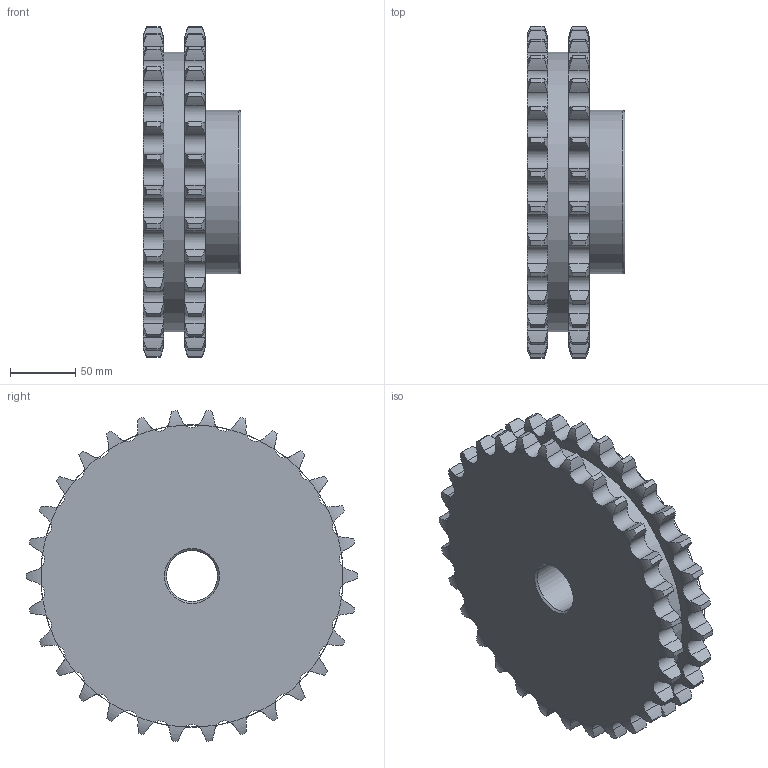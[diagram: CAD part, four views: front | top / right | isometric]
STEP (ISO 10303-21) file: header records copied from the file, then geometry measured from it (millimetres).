
FILE_DESCRIPTION(/* description */ (''),/* implementation_level */ '2;1');
FILE_NAME(/* name */ 'C:\Users\stagistacad\Desktop\12225030.stp',/* time_stamp */ '2018-06-21T14:39:57+02:00',/* author */ ('stagistacad'),/* organization */ (''),/* preprocessor_version */ 'ST-DEVELOPER v15.6',/* originating_system */ 'Autodesk Inventor 2015',/* authorisation */ '');
FILE_SCHEMA (('AUTOMOTIVE_DESIGN { 1 0 10303 214 3 1 1 }'));
Length unit declared in the file: millimetre
Products named in the file (1): 12225030
Bounding box: 75 x 254.12 x 253.15 mm (x, y, z)
Volume: 2221600.6 mm3; surface area: 168812 mm2
Topology: 1 solids, 1 shells, 372 faces, 1217 edges, 790 vertices
Faces by surface type: cylinder 243, torus 92, plane 35, cone 2
Full cylindrical faces by diameter (mm): 39 x1, 125 x1, 214.12 x1
Entity records: 14750 total; most frequent: CARTESIAN_POINT 4519, ORIENTED_EDGE 2418, DIRECTION 1964, EDGE_CURVE 1209, AXIS2_PLACEMENT_3D 862, VERTEX_POINT 789, CIRCLE 489, B_SPLINE_CURVE_WITH_KNOTS 480
